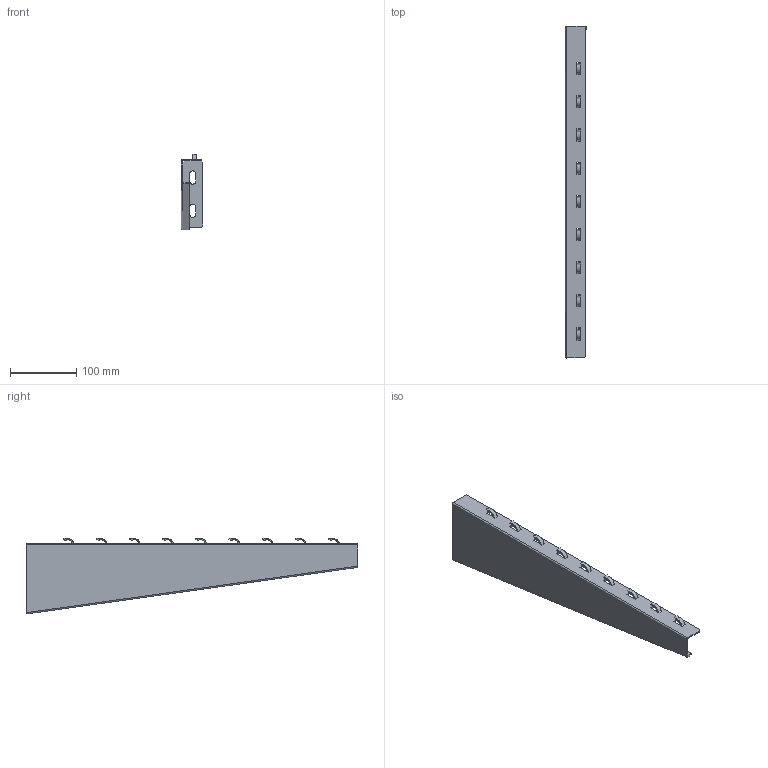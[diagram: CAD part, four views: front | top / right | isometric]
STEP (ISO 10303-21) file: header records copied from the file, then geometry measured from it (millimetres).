
FILE_DESCRIPTION(/* description */ (''),/* implementation_level */ '2;1');
FILE_NAME(/* name */ 'NZM500',/* time_stamp */ '2012-11-29T22:27:47+01:00',/* author */ (''),/* organization */ (''),/* preprocessor_version */ 'ST-DEVELOPER v10',/* originating_system */ '',/* authorisation */ '');
FILE_SCHEMA (('AUTOMOTIVE_DESIGN_CC2'));
Length unit declared in the file: millimetre
Products named in the file (1): 1
Bounding box: 32 x 500.28 x 114.47 mm (x, y, z)
Surface area: 119416.6 mm2 (no closed solid volume)
Topology: 0 solids, 178 shells, 180 faces, 980 edges, 976 vertices
Faces by surface type: bspline 133, plane 47
Entity records: 14961 total; most frequent: CARTESIAN_POINT 9049, ORIENTED_EDGE 984, EDGE_CURVE 980, VERTEX_POINT 976, B_SPLINE_CURVE_WITH_KNOTS 426, EDGE_LOOP 202, ADVANCED_FACE 180, FACE_OUTER_BOUND 180
